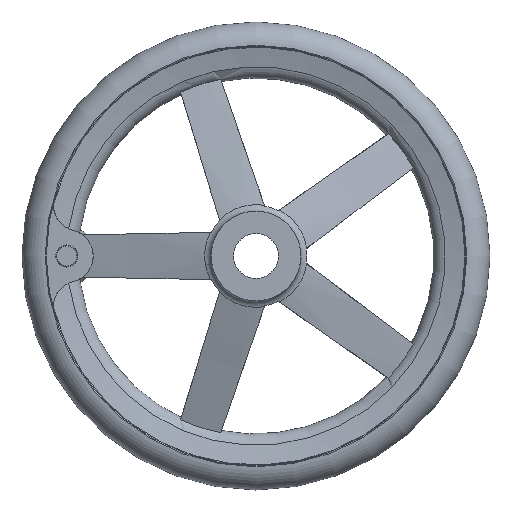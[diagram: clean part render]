
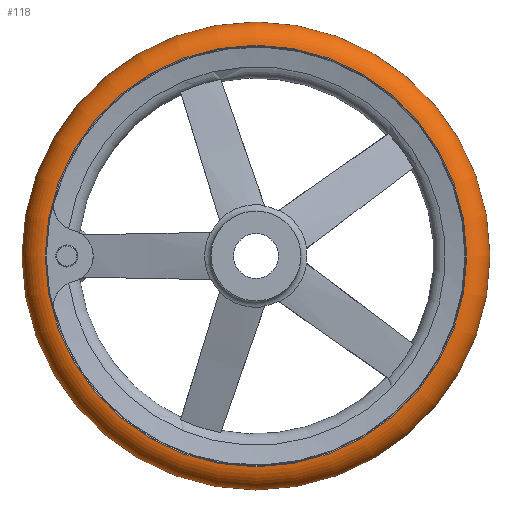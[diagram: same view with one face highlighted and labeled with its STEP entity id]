
A CAD part, left-side view. The second image highlights one B-rep face of the part: STEP entity #118.
In plain terms, the highlighted toroidal (fillet/blend) face has major radius 111.988 mm and minor radius 13.012 mm.
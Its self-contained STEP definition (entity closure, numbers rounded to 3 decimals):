
#118 = ADVANCED_FACE( '', ( #246, #247, #248 ), #249, .T. );
#246 = FACE_BOUND( '', #427, .T. );
#247 = FACE_OUTER_BOUND( '', #428, .T. );
#248 = FACE_OUTER_BOUND( '', #429, .T. );
#249 = TOROIDAL_SURFACE( '', #430, 111.988, 13.012 );
#427 = VERTEX_LOOP( '', #805 );
#428 = EDGE_LOOP( '', ( #806 ) );
#429 = EDGE_LOOP( '', ( #807 ) );
#430 = AXIS2_PLACEMENT_3D( '', #808, #809, #810 );
#805 = VERTEX_POINT( '', #1047 );
#806 = ORIENTED_EDGE( '', *, *, #1048, .T. );
#807 = ORIENTED_EDGE( '', *, *, #1044, .F. );
#808 = CARTESIAN_POINT( '', ( 37., 0., 0. ) );
#809 = DIRECTION( '', ( 1., 0., 0. ) );
#810 = DIRECTION( '', ( 0., 1., 0. ) );
#1044 = EDGE_CURVE( '', #1281, #1281, #1282, .T. );
#1047 = CARTESIAN_POINT( '', ( 37., 125., 0. ) );
#1048 = EDGE_CURVE( '', #1285, #1285, #1286, .T. );
#1281 = VERTEX_POINT( '', #2131 );
#1282 = CIRCLE( '', #2132, 112.542 );
#1285 = VERTEX_POINT( '', #2136 );
#1286 = CIRCLE( '', #2137, 112.542 );
#2131 = CARTESIAN_POINT( '', ( 50., 112.542, 0. ) );
#2132 = AXIS2_PLACEMENT_3D( '', #2330, #2331, #2332 );
#2136 = CARTESIAN_POINT( '', ( 24., 112.542, 0. ) );
#2137 = AXIS2_PLACEMENT_3D( '', #2337, #2338, #2339 );
#2330 = CARTESIAN_POINT( '', ( 50., 0., 0. ) );
#2331 = DIRECTION( '', ( 1., 0., 0. ) );
#2332 = DIRECTION( '', ( 0., 1., 0. ) );
#2337 = CARTESIAN_POINT( '', ( 24., 0., 0. ) );
#2338 = DIRECTION( '', ( 1., 0., 0. ) );
#2339 = DIRECTION( '', ( 0., 1., 0. ) );
